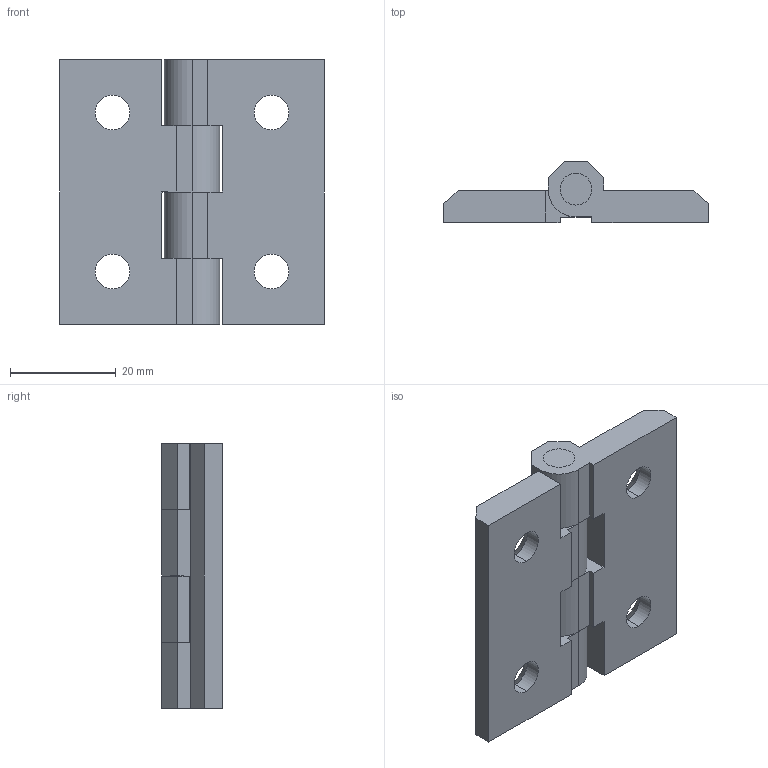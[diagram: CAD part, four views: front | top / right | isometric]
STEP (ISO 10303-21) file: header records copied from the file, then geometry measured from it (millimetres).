
FILE_DESCRIPTION (( 'STEP AP203' ), '1' );
FILE_NAME ('XG02-067-2.STEP', '2023-12-09T06:43:26', ( '' ), ( '' ), 'SwSTEP 2.0', 'SolidWorks 2020', '' );
FILE_SCHEMA (( 'CONFIG_CONTROL_DESIGN' ));
Length unit declared in the file: millimetre
Products named in the file (3): 226-2A; XG02-067-2; 种赽
Assembly tree (3 placements, depth 2):
  XG02-067-2
    226-2A  x2
    种赽
Bounding box: 50 x 11.5 x 50 mm (x, y, z)
Volume: 14932.2 mm3; surface area: 9345.7 mm2
Topology: 3 solids, 3 shells, 82 faces, 220 edges, 144 vertices
Faces by surface type: plane 52, cylinder 22, cone 8
Entity records: 1676 total; most frequent: DIRECTION 239, CARTESIAN_POINT 236, ORIENTED_EDGE 226, EDGE_CURVE 113, VECTOR 85, LINE 85, AXIS2_PLACEMENT_3D 77, VERTEX_POINT 74
